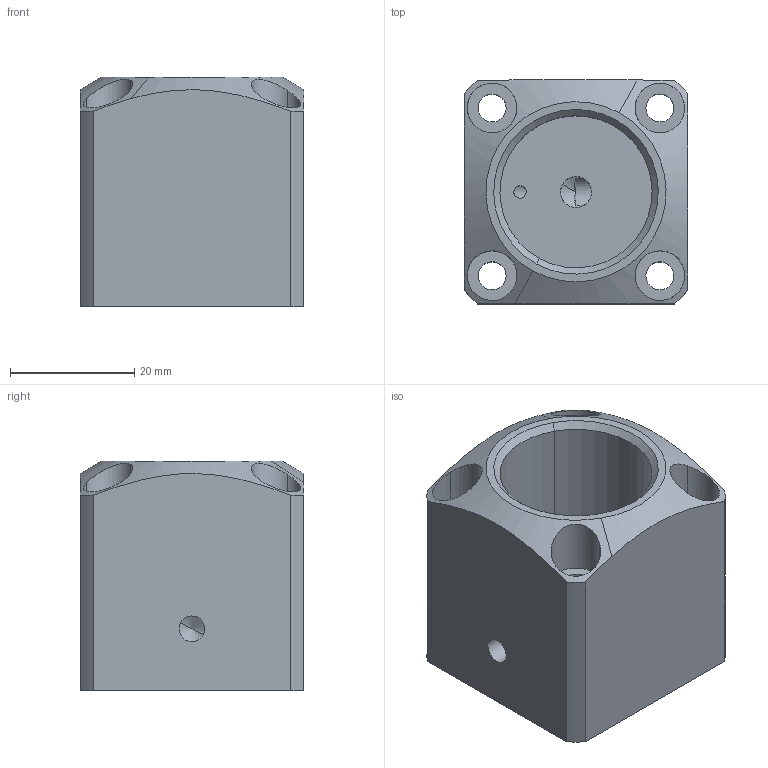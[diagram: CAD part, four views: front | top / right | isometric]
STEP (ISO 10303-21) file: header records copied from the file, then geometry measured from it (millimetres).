
FILE_DESCRIPTION(('CATIA V5 STEP'),'2;1');
FILE_NAME('\\Kjf-102\KJF_TC\Hydraulic_Clamp\Standard\WORK_SUPPORT\WORKSOUPPORT-BALL\CWS-1006x_-\CWB-2637_-_BLOCK.stp','2018-09-07T06:03:33+00:00',('none'),('none'),'CATIA Version 5 Release 19 SP 6 (IN-10)','CATIA V5 STEP AP214','none');
FILE_SCHEMA(('AUTOMOTIVE_DESIGN { 1 0 10303 214 1 1 1 1 }'));
Length unit declared in the file: millimetre
Products named in the file (1): CWB-2637_-_BLOCK
Bounding box: 36 x 36 x 37 mm (x, y, z)
Volume: 32640.3 mm3; surface area: 11538.3 mm2
Topology: 1 solids, 1 shells, 59 faces, 148 edges, 95 vertices
Faces by surface type: cylinder 34, plane 13, cone 10, torus 2
Entity records: 1961 total; most frequent: CARTESIAN_POINT 586, ORIENTED_EDGE 288, DIRECTION 187, EDGE_CURVE 144, AXIS2_PLACEMENT_3D 103, VERTEX_POINT 94, EDGE_LOOP 79, CIRCLE 67
